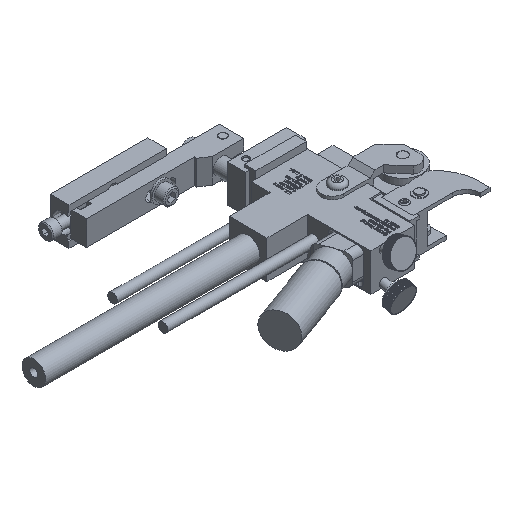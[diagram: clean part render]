
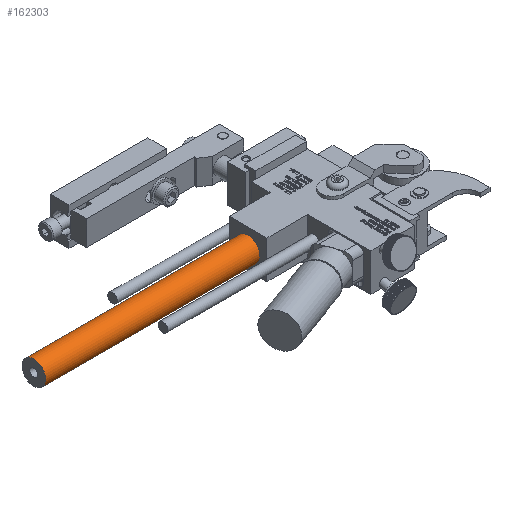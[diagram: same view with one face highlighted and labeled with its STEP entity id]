
A CAD part, isometric view. The second image highlights one B-rep face of the part: STEP entity #162303.
In plain terms, the highlighted cylindrical face has radius 5.969 mm (diameter 11.938 mm), a full revolution.
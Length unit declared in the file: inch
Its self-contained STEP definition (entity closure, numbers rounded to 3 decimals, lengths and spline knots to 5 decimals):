
#162021=CARTESIAN_POINT('',(-1.4995,0.8125,0.61));
#162022=VERTEX_POINT('',#162021);
#162023=CARTESIAN_POINT('',(-1.4995,0.8125,0.375));
#162024=DIRECTION('',(1.0,0.0,0.0));
#162025=DIRECTION('',(0.0,0.0,-1.0));
#162026=AXIS2_PLACEMENT_3D('',#162023,#162024,#162025);
#162027=CIRCLE('',#162026,0.235);
#162028=EDGE_CURVE('',#162022,#162022,#162027,.T.);
#162269=CARTESIAN_POINT('',(-5.7495,0.8125,0.61));
#162270=VERTEX_POINT('',#162269);
#162271=CARTESIAN_POINT('',(-5.7495,0.8125,0.375));
#162272=DIRECTION('',(1.0,0.0,0.0));
#162273=DIRECTION('',(0.0,0.0,-1.0));
#162274=AXIS2_PLACEMENT_3D('',#162271,#162272,#162273);
#162275=CIRCLE('',#162274,0.235);
#162276=EDGE_CURVE('',#162270,#162270,#162275,.T.);
#162292=CARTESIAN_POINT('',(-1.4995,0.8125,0.375));
#162293=DIRECTION('',(-1.0,0.,0.));
#162294=DIRECTION('',(0.0,0.0,-1.0));
#162295=AXIS2_PLACEMENT_3D('',#162292,#162293,#162294);
#162296=CYLINDRICAL_SURFACE('',#162295,0.235);
#162297=ORIENTED_EDGE('',*,*,#162276,.T.);
#162298=EDGE_LOOP('',(#162297));
#162299=FACE_OUTER_BOUND('',#162298,.T.);
#162300=ORIENTED_EDGE('',*,*,#162028,.F.);
#162301=EDGE_LOOP('',(#162300));
#162302=FACE_BOUND('',#162301,.T.);
#162303=ADVANCED_FACE('',(#162299,#162302),#162296,.T.);
